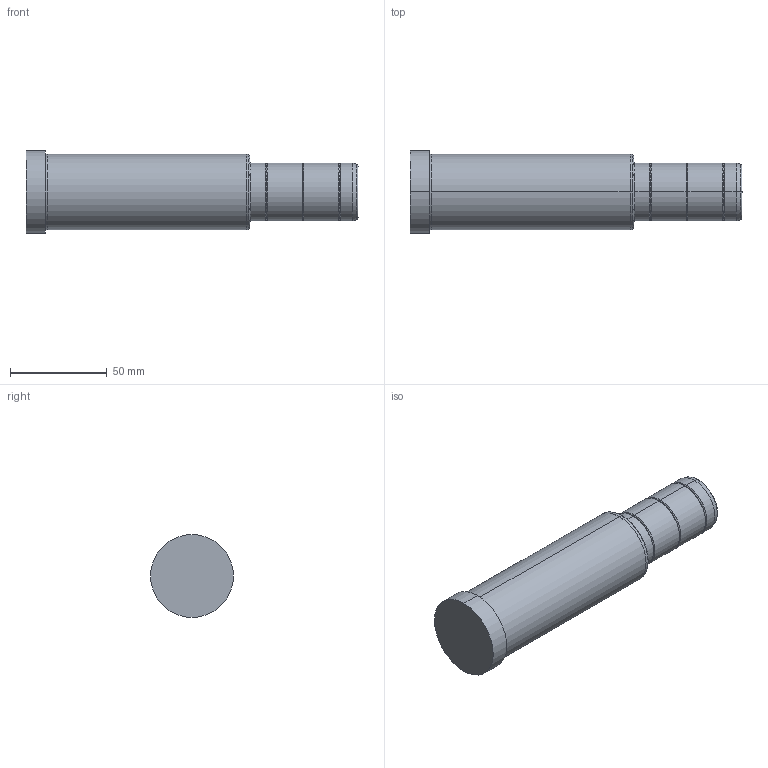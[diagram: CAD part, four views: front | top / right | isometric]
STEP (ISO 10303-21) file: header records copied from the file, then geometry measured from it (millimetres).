
FILE_DESCRIPTION( ( 'STEP AP203' ), '1' );
FILE_NAME( 'C:/Projects/D02 - 30x116x56.step', '2002-12-31T22:37:37', ( ' ' ), ( ' ' ), 'XStep 1.0', ' ', ' ' );
FILE_SCHEMA( ( 'CONFIG_CONTROL_DESIGN' ) );
Length unit declared in the file: metre
Products named in the file (1): 1
Bounding box: 172 x 43 x 43 mm (x, y, z)
Volume: 180617.8 mm3; surface area: 22533.1 mm2
Topology: 1 solids, 1 shells, 42 faces, 82 edges, 46 vertices
Faces by surface type: bspline 22, revolution 20
Entity records: 1325 total; most frequent: CARTESIAN_POINT 517, ORIENTED_EDGE 164, DIRECTION 134, EDGE_CURVE 82, AXIS2_PLACEMENT_3D 47, EDGE_LOOP 46, VERTEX_POINT 46, CIRCLE 46
